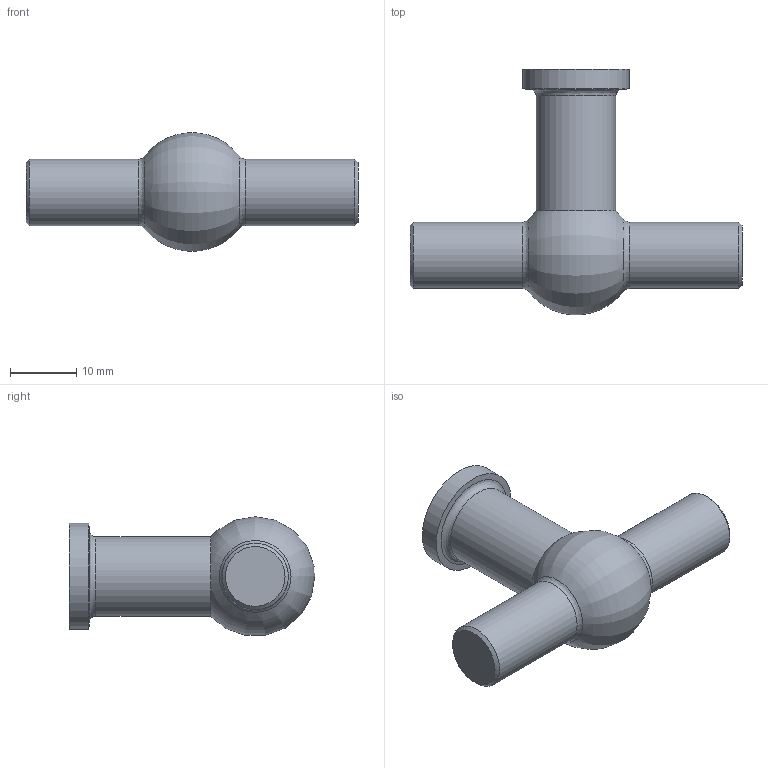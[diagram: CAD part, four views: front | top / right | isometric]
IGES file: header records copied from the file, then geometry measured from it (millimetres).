
Start section: Data from Parasolid IGES Translator 15.0.47, Copyright(c) 2006 Siemens P LM Software. All Rights Reserved.
Global section: file name: 9113293.igs; native system:  By UGS Corp.; preprocessor: XPlus GENERIC/IGES 3.0; author: Noname; organization: Noname; date: 20140122.101101; units: millimetre
Bounding box: 50 x 36.97 x 17.86 mm (x, y, z)
Surface area: 3187.5 mm2 (no closed solid volume)
Topology: 0 solids, 0 shells, 16 faces, 60 edges, 45 vertices
Faces by surface type: revolution 12, extrusion 4
